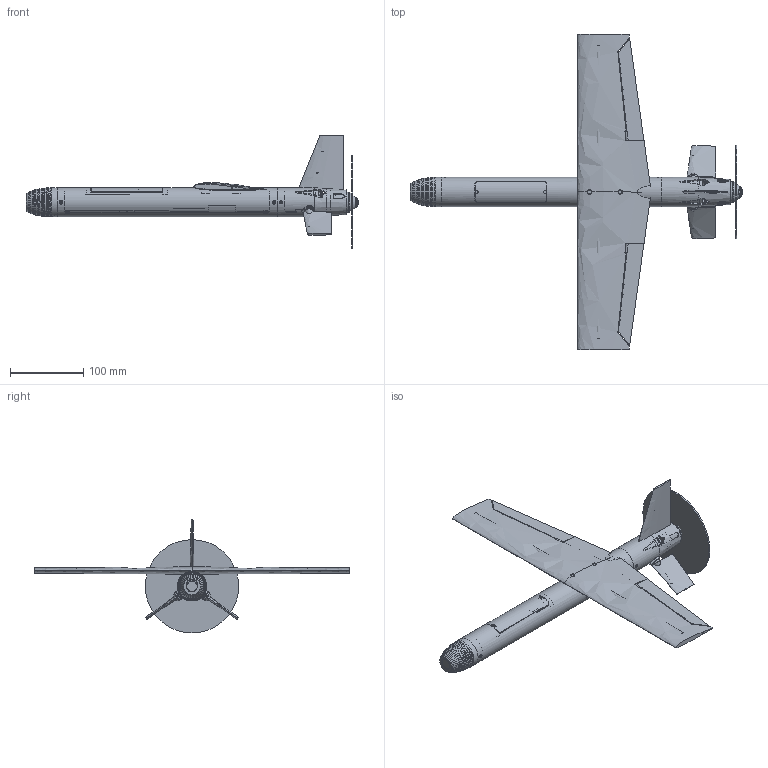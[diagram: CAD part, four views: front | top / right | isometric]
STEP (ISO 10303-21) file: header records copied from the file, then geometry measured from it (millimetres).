
FILE_DESCRIPTION(('SkyG Speed 90B - revision C6B-4 - 2026-10-08','C6B-assembly'),'2;1');
FILE_NAME('C6B-assembly_C6B-4','2026-10-08T07:02:33',('Author'),( 'Open CASCADE'),'Open CASCADE STEP processor 7.9','Open CASCADE 7.9' ,'Unknown');
FILE_SCHEMA(('AUTOMOTIVE_DESIGN { 1 0 10303 214 1 1 1 1 }'));
Length unit declared in the file: millimetre
Products named in the file (141): C4; N0M-nose-micro-camera; N0M-vtx-shelf; F3-tail-module; WR-wing-right; WL-wing-left; AR-aileron-right; AL-aileron-left; SR-stabilator-right; SL-stabilator-left; FN-fin; AHR-aileron-horn-right; AHL-aileron-horn-left; THR-tail-horn-right; THL-tail-horn-left; TR-equipment-tray; TC-tail-coupler; CW-countersunk-washer; NB1-wing-nut-bar-front; NB2-wing-nut-bar-rear; HL1-hatch-lip-front; HL2-hatch-lip-rear; HF-front-hatch; HG-gps-carrier; M1-motor-plate; SP-spinner; ENV-motor; ENV-prop_disc; ENV-prop_hub_nut; ENV-battery; ENV-camera_micro19; ENV-cam_screws; ENV-O_o4_camera; ENV-O_o4_screws; ENV-O_o4_module; ENV-vtx; ENV-gnss; ENV-flight_controller; ENV-ail_servo_arm; ENV-ail_rod_R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
Assembly tree (140 placements, depth 2):
  C4
    N0M-nose-micro-camera
    N0M-vtx-shelf
    F3-tail-module
    WR-wing-right
    WL-wing-left
    AR-aileron-right
    AL-aileron-left
    SR-stabilator-right
    SL-stabilator-left
    FN-fin
    AHR-aileron-horn-right
    AHL-aileron-horn-left
    THR-tail-horn-right
    THL-tail-horn-left
    TR-equipment-tray
    TC-tail-coupler
    CW-countersunk-washer
    NB1-wing-nut-bar-front
    NB2-wing-nut-bar-rear
    HL1-hatch-lip-front
    HL2-hatch-lip-rear
    HF-front-hatch
    HG-gps-carrier
    M1-motor-plate
    SP-spinner
    ENV-motor
    ENV-prop_disc
    ENV-prop_hub_nut
    ENV-battery
    ENV-camera_micro19
    ENV-cam_screws
    ENV-O_o4_camera
    ENV-O_o4_screws
    ENV-O_o4_module
    ENV-vtx
    ENV-gnss
    ENV-flight_controller
    ENV-ail_servo_arm
    ENV-ail_rod_R
    ENV-ail_link_R
    ENV-ail_rod_L
    ENV-ail_link_L
    ENV-ail_spine_R
    ENV-ail_spine_L
    ENV-receiver
    ENV-ant_elrs
    ENV-ant_vtx
    ENV-O_ant_video
    ENV-aileron_servo
    ENV-tail_servo_L
    ENV-tail_servo_R
    ENV-esc
    ENV-tail_servo_arm_R
    ENV-tail_link_R
    ENV-tail_servo_arm_L
    ENV-tail_link_L
    ENV-wire_video__red
    ENV-wire_video__black
    ENV-wire_video__yellow
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Bounding box: 452.19 x 430 x 155.1 mm (x, y, z)
Volume: 471403.1 mm3; surface area: 339022.7 mm2
Topology: 177 solids, 177 shells, 2319 faces, 5820 edges, 3850 vertices
Faces by surface type: plane 1479, cylinder 451, bspline 219, cone 130, torus 15, sphere 14, revolution 11
Full cylindrical faces by diameter (mm): 0.98 x6, 1.107 x11, 1.2 x22, 1.25 x8, 1.5 x2, 1.6 x28, 1.9 x1, 2 x28, 2.1 x2, 2.2 x14, 2.5 x2, 2.6 x6, 2.842 x6, 3 x13, 3.05 x2, 3.2 x4, 3.8 x2, 3.9 x3, 3.94 x3, 4 x4, 4.9 x8, 5 x12, 5.2 x3, 5.5 x4, 5.6 x3, 6 x3, 9 x1, 9.2 x1, 12.7 x1, 13 x2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
Entity records: 375799 total; most frequent: CARTESIAN_POINT 264638, DIRECTION 17229, ORIENTED_EDGE 11612, PCURVE 11612, DEFINITIONAL_REPRESENTATION 11612, LINE 8019, VECTOR 8019, B_SPLINE_CURVE_WITH_KNOTS 5817
